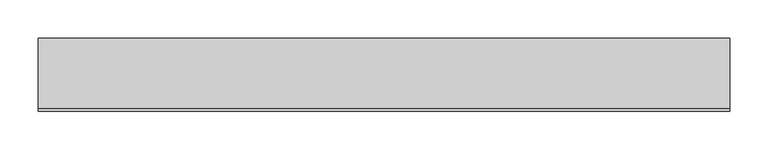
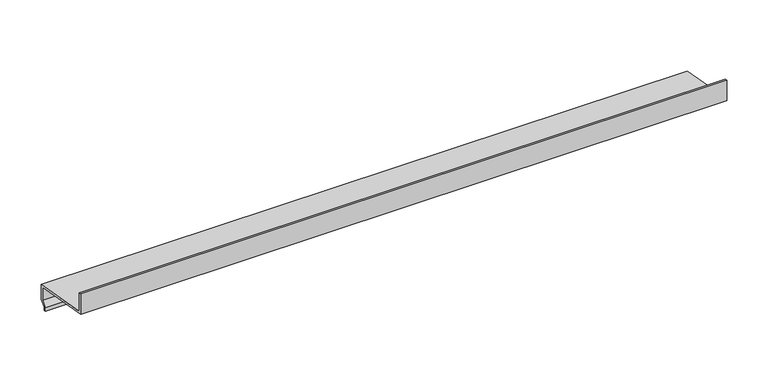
"""IFC4 building model written with IfcOpenShell, lengths in millimetres: proxy geometry, Карниз3 : Карниз."""

from ifc_helpers import new_model, si_unit, frame, origin, place, context, project, spatial, polyline, outline, extrude, source, transform, mapped, element, save


def generic_models_542eea26(model_context):
    return source(origin(), model_context, "Body", "SweptSolid", [
        extrude(outline(polyline([(27300.0, 114.9877934), (27300.0, 144.9877934), (27303.0, 144.9877934), (27303.0, 117.5050923), (27394.7848515, 101.3209465), (27394.7848515, 79.5093488), (27388.0, 72.7244973), (27388.0, 67.7244973), (27385.0, 67.7244973), (27385.0, 72.7244973), (27391.7848515, 79.5093488), (27391.7848515, 98.8036476), (27300.0, 114.9877934)])), frame((4369.9972865, 0.0, 0.0), z_axis=(1.0, 0.0, 0.0), x_axis=(0.0, 1.0, 0.0)), (0.0, 0.0, 1.0), 900.0),
    ])


if __name__ == "__main__":
    model = new_model("IFC4")
    model_context = context("Model", 3, world=origin())
    ifc_project = project(units=[si_unit("LENGTHUNIT", "METRE", prefix="MILLI")], contexts=[model_context])
    site = spatial("IfcSite", under=ifc_project)
    building = spatial("IfcBuilding", under=site)
    placement = place(None, origin())
    generic_models_shape = generic_models_542eea26(model_context)
    element("IfcBuildingElementProxy", 1, Name="Карниз3 : Карниз", ObjectType="Карниз3 : Карниз", at=placement, inside=building, context=model_context, shape_type="MappedRepresentation", body=[
        mapped(generic_models_shape, transform((0.0, 0.0, 0.0), x_axis=(1.0, 0.0, 0.0), y_axis=(0.0, 1.0, 0.0), z_axis=(0.0, 0.0, 1.0))),
    ])
    save(model, "model.ifc")
